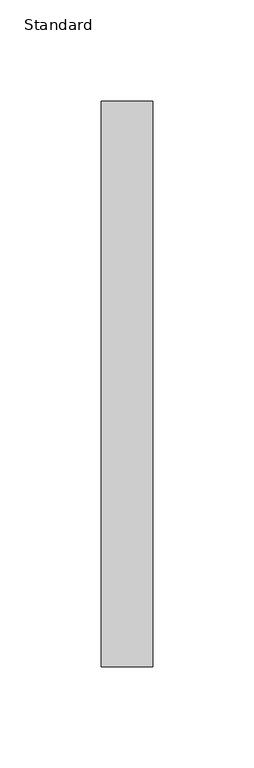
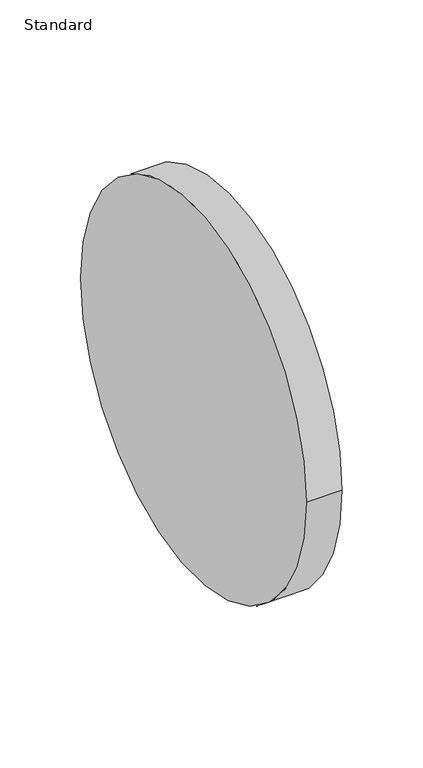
"""IFC4 building model written with IfcOpenShell, lengths in millimetres: pipe fitting geometry, Orifice Plate : Standard."""

import ifcopenshell
import ifcopenshell.guid

model = None  # the IFC model being written
_history = None  # IfcOwnerHistory: only IFC2X3 demands one
_inside = {}  # id of a spatial element -> (the spatial element, [elements in it])
_under = {}  # id of a project, library or spatial element -> (it, [spatial elements below it])
_declared = {}  # id of a project -> (the project, [libraries it declares])
_typed = {}  # id of a type object -> (the type object, [elements of that type])
_made_of = {}  # id of a material, layer set ... -> (it, [elements and type objects made of it])


def new_model(schema):
    """Start an empty IFC model of exactly this schema.

    Asked for "IFC4X3", IfcOpenShell would pick the latest addendum, in which some entities
    have other attributes; the version numbers below select the first issue.
    IFC2X3 requires an IfcOwnerHistory on every rooted entity: one is made here for all.
    """
    global model, _history
    if schema == "IFC4X3":
        model = ifcopenshell.file(schema_version=(4, 3, 0, 0))
    else:
        model = ifcopenshell.file(schema=schema)
    _inside.clear()
    _under.clear()
    _declared.clear()
    _typed.clear()
    _made_of.clear()
    _history = None
    if model.schema == "IFC2X3":
        org = make("IfcOrganization", Name="unknown")
        user = make(
            "IfcPersonAndOrganization",
            ThePerson=make("IfcPerson", FamilyName="unknown"),
            TheOrganization=org,
        )
        app = make(
            "IfcApplication",
            ApplicationDeveloper=org,
            Version="unknown",
            ApplicationFullName="unknown",
            ApplicationIdentifier="unknown",
        )
        _history = make(
            "IfcOwnerHistory",
            OwningUser=user,
            OwningApplication=app,
            ChangeAction="ADDED",
            CreationDate=0,
        )
    return model


def make(cls, **values):
    """One entity of the class cls with the attributes given. An attribute that is None is left unset."""
    return model.create_entity(
        cls, **{name: value for name, value in values.items() if value is not None}
    )


def rooted(cls, **values):
    """An entity with a GlobalId (a new one), such as an element, a storey or a relation."""
    return make(cls, GlobalId=ifcopenshell.guid.new(), OwnerHistory=_history, **values)


def si_unit(unit_type, name, prefix=None):
    """IfcSIUnit, for example si_unit("LENGTHUNIT", "METRE", prefix="MILLI")."""
    return make("IfcSIUnit", UnitType=unit_type, Prefix=prefix, Name=name)


def assignment(units):
    """IfcUnitAssignment: the units of a project."""
    return None if units is None else make("IfcUnitAssignment", Units=units)


def point(xyz):
    """IfcCartesianPoint."""
    return None if xyz is None else make("IfcCartesianPoint", Coordinates=xyz)


def direction(xyz):
    """IfcDirection."""
    return None if xyz is None else make("IfcDirection", DirectionRatios=xyz)


def frame(location, z_axis=None, x_axis=None):
    """IfcAxis2Placement3D, a coordinate frame: its origin and axes. An axis left out is left unset."""
    return make(
        "IfcAxis2Placement3D",
        Location=point(location),
        Axis=direction(z_axis),
        RefDirection=direction(x_axis),
    )


def frame_2d(location, x_axis=None):
    """IfcAxis2Placement2D, a coordinate frame in the plane: its origin and x axis."""
    return make(
        "IfcAxis2Placement2D", Location=point(location), RefDirection=direction(x_axis)
    )


def origin():
    """The frame at (0, 0, 0) with its axes left unset."""
    return frame((0.0, 0.0, 0.0))


def origin_2d():
    """The frame at (0, 0) in the plane with its x axis left unset."""
    return frame_2d((0.0, 0.0))


def place(relative_to, where):
    """IfcLocalPlacement: puts the frame where relative to a parent placement (None: the world)."""
    return make(
        "IfcLocalPlacement", PlacementRelTo=relative_to, RelativePlacement=where
    )


def context(
    kind, dimensions, precision=None, world=None, true_north=None, identifier=None
):
    """IfcGeometricRepresentationContext, for example the 3D "Model" context."""
    return make(
        "IfcGeometricRepresentationContext",
        ContextIdentifier=identifier,
        ContextType=kind,
        CoordinateSpaceDimension=dimensions,
        Precision=precision,
        WorldCoordinateSystem=world,
        TrueNorth=true_north,
    )


def project(units=None, contexts=None):
    """IfcProject with its units and contexts."""
    return rooted(
        "IfcProject",
        Name="project",
        RepresentationContexts=contexts,
        UnitsInContext=assignment(units),
    )


def spatial(cls, under=None, at=None, **own):
    """A site, building, storey or space (cls), placed at a placement, below another one or the project."""
    s = rooted(cls, ObjectPlacement=at, **own)
    if under is not None:
        _under.setdefault(under.id(), (under, []))[1].append(s)
    return s


def circle_curve(where, radius):
    """IfcCircle in the frame where."""
    return make("IfcCircle", Position=where, Radius=radius)


def trimmed(basis, trim1, trim2, sense, master):
    """IfcTrimmedCurve: the piece of a basis curve between two trims."""
    return make(
        "IfcTrimmedCurve",
        BasisCurve=basis,
        Trim1=trim1,
        Trim2=trim2,
        SenseAgreement=sense,
        MasterRepresentation=master,
    )


def segment(curve, same_sense, transition):
    """IfcCompositeCurveSegment."""
    return make(
        "IfcCompositeCurveSegment",
        Transition=transition,
        SameSense=same_sense,
        ParentCurve=curve,
    )


def composite_curve(segments, self_intersect=None):
    """IfcCompositeCurve: segments joined end to end."""
    return make("IfcCompositeCurve", Segments=segments, SelfIntersect=self_intersect)


def outline(outer, holes=None, kind="AREA"):
    """IfcArbitraryClosedProfileDef: a profile drawn as a closed curve; with holes, ...WithVoids."""
    if holes is None:
        return make("IfcArbitraryClosedProfileDef", ProfileType=kind, OuterCurve=outer)
    return make(
        "IfcArbitraryProfileDefWithVoids",
        ProfileType=kind,
        OuterCurve=outer,
        InnerCurves=holes,
    )


def extrude(swept, where, along, depth):
    """IfcExtrudedAreaSolid: the profile swept, set in the frame where, extruded along a direction by depth."""
    return make(
        "IfcExtrudedAreaSolid",
        SweptArea=swept,
        Position=where,
        ExtrudedDirection=direction(along),
        Depth=depth,
    )


def shape(context_of_items, identifier, shape_type, items):
    """IfcShapeRepresentation: the items that make up one representation, for example the "Body"."""
    return make(
        "IfcShapeRepresentation",
        ContextOfItems=context_of_items,
        RepresentationIdentifier=identifier,
        RepresentationType=shape_type,
        Items=items,
    )


def source(mapping_origin, context_of_items, identifier, shape_type, items):
    """IfcRepresentationMap: a shape defined once, which mapped items show again and again."""
    return make(
        "IfcRepresentationMap",
        MappingOrigin=mapping_origin,
        MappedRepresentation=shape(context_of_items, identifier, shape_type, items),
    )


def transform(
    local_origin,
    x_axis=None,
    y_axis=None,
    z_axis=None,
    scale=None,
    scale2=None,
    scale3=None,
    uniform=True,
):
    """IfcCartesianTransformationOperator3D, or its non-uniform kind. x_axis, y_axis, z_axis: its Axis1, 2, 3."""
    if uniform:
        return make(
            "IfcCartesianTransformationOperator3D",
            Axis1=direction(x_axis),
            Axis2=direction(y_axis),
            LocalOrigin=point(local_origin),
            Scale=scale,
            Axis3=direction(z_axis),
        )
    return make(
        "IfcCartesianTransformationOperator3DnonUniform",
        Axis1=direction(x_axis),
        Axis2=direction(y_axis),
        LocalOrigin=point(local_origin),
        Scale=scale,
        Axis3=direction(z_axis),
        Scale2=scale2,
        Scale3=scale3,
    )


def mapped(mapping_source, mapping_target):
    """IfcMappedItem: shows the shape of a source again, moved by a transform."""
    return make(
        "IfcMappedItem", MappingSource=mapping_source, MappingTarget=mapping_target
    )


def made_of(thing, what):
    """Note that an element or type object is made of a material, layer set ...; save() writes the relation."""
    if what is not None:
        _made_of.setdefault(what.id(), (what, []))[1].append(thing)
    return thing


def element(
    cls,
    number,
    at=None,
    inside=None,
    cuts=None,
    type_object=None,
    material=None,
    context=None,
    identifier="Body",
    shape_type=None,
    held_by="IfcProductDefinitionShape",
    body=None,
    shapes=None,
    **own,
):
    """One element of the class cls, such as IfcWall. Its Tag is "e" and its number.

    at: its placement. inside: the storey or other place that contains it. cuts: it is an
    opening in that element (IfcRelVoidsElement). A single representation is given by context,
    identifier, shape_type and body (its items); several are given by shapes. held_by: the class
    of the entity that holds the representations. save() writes the other relations.
    """
    e = rooted(cls, Tag="e%d" % number, ObjectPlacement=at, **own)
    if body is not None:
        shapes = [shape(context, identifier, shape_type, body)]
    if shapes is not None:
        e.Representation = make(held_by, Representations=shapes)
    if inside is not None:
        _inside.setdefault(inside.id(), (inside, []))[1].append(e)
    if cuts is not None:
        rooted(
            "IfcRelVoidsElement", RelatingBuildingElement=cuts, RelatedOpeningElement=e
        )
    if type_object is not None:
        _typed.setdefault(type_object.id(), (type_object, []))[1].append(e)
    return made_of(e, material)


def aggregate(whole, parts):
    """IfcRelAggregates: a whole, such as a stair, and the parts it consists of."""
    return rooted("IfcRelAggregates", RelatingObject=whole, RelatedObjects=parts)


def save(model, path):
    """Write the relations noted so far, then the file.

    IfcRelAggregates (storeys below a building ...), IfcRelContainedInSpatialStructure (elements
    in a storey), IfcRelDefinesByType, IfcRelAssociatesMaterial and IfcRelDeclares: one each for
    every whole, place, type object, material and project.
    """
    for whole, parts in _under.values():
        aggregate(whole, parts)
    for where, things in _inside.values():
        rooted(
            "IfcRelContainedInSpatialStructure",
            RelatedElements=things,
            RelatingStructure=where,
        )
    for kind, things in _typed.values():
        rooted("IfcRelDefinesByType", RelatedObjects=things, RelatingType=kind)
    for what, things in _made_of.values():
        rooted("IfcRelAssociatesMaterial", RelatedObjects=things, RelatingMaterial=what)
    for by, libraries in _declared.values():
        rooted("IfcRelDeclares", RelatingContext=by, RelatedDefinitions=libraries)
    model.write(path)


def standard_5082088a(model_context):
    return source(origin(), model_context, "Body", "SweptSolid", [
        extrude(outline(composite_curve([segment(trimmed(circle_curve(origin_2d(), 139.7), [point((-139.7, 0.0))], [point((139.7, 0.0))], False, "CARTESIAN"), True, "CONTINUOUS"), segment(trimmed(circle_curve(origin_2d(), 139.7), [point((139.7, 0.0))], [point((-139.7, 0.0))], False, "CARTESIAN"), True, "CONTINUOUS")], self_intersect=False)), frame((1.5875, 0.0, 0.0), z_axis=(1.0, 0.0, 0.0), x_axis=(0.0, 1.0, 0.0)), (0.0, 0.0, 1.0), 25.4),
    ])


if __name__ == "__main__":
    model = new_model("IFC4")
    model_context = context("Model", 3, world=origin())
    ifc_project = project(units=[si_unit("LENGTHUNIT", "METRE", prefix="MILLI")], contexts=[model_context])
    site = spatial("IfcSite", under=ifc_project)
    building = spatial("IfcBuilding", under=site)
    placement = place(None, origin())
    standard_shape = standard_5082088a(model_context)
    element("IfcPipeFitting", 1, ObjectType="Orifice Plate : Standard", at=placement, inside=building, context=model_context, shape_type="MappedRepresentation", body=[
        mapped(standard_shape, transform((0.0, 0.0, 0.0), x_axis=(1.0, 0.0, 0.0), y_axis=(0.0, 1.0, 0.0), z_axis=(0.0, 0.0, 1.0))),
    ])
    save(model, "model.ifc")
